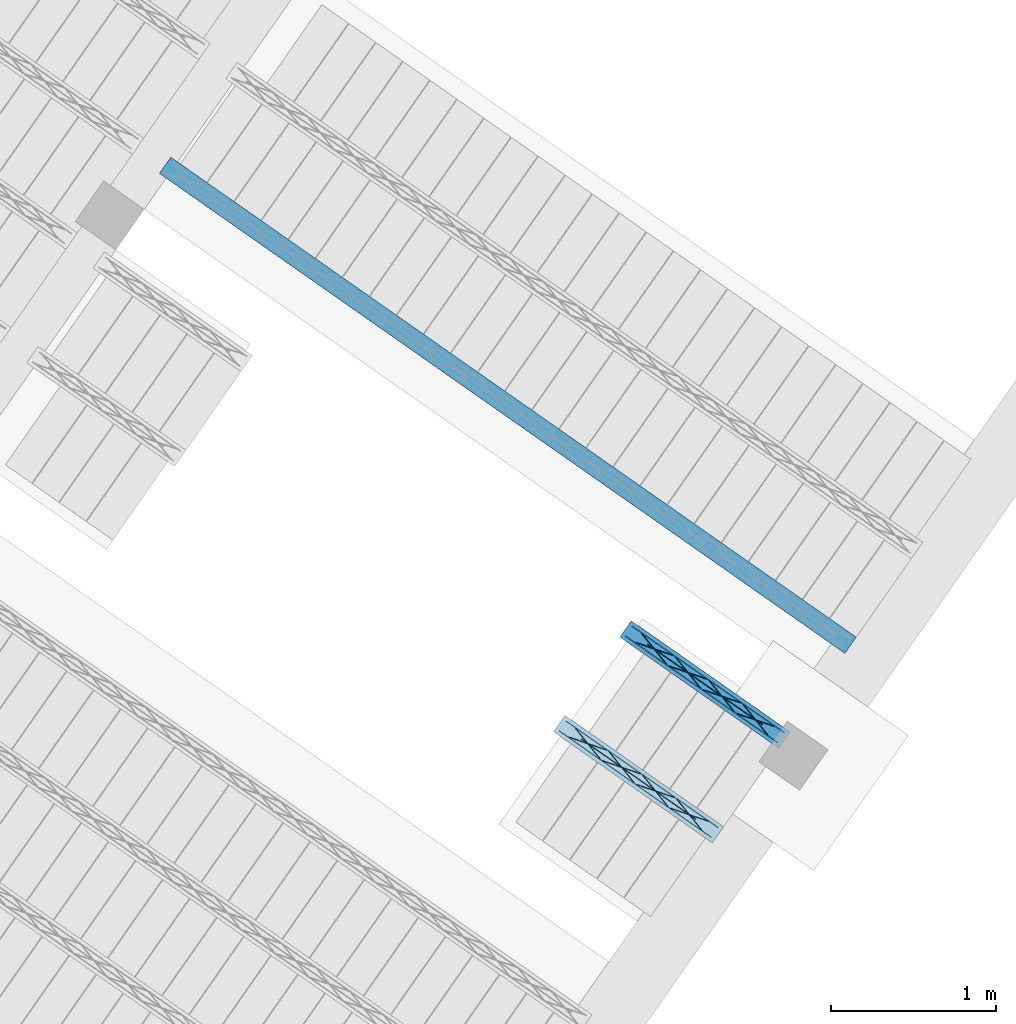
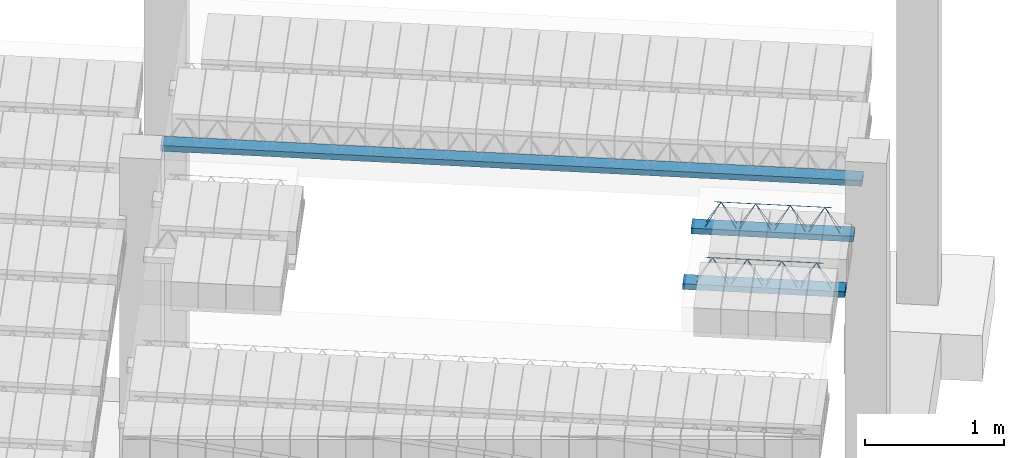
# One storey, part 45 of 80: 4 beams, 2 members.
"""IFC2X3 building model written with IfcOpenShell, lengths in metres."""

from ifc_helpers import new_model, entity, si_unit, converted_unit, derived_unit, direction, frame, frame_2d, origin, origin_2d_with_axis, place, context, subcontext, project, spatial, rectangle, circle, extrude, material, type_object, element, save


model = new_model("IFC2X3")

# Units and contexts
model_context = context("Model", 3, precision=1e-05, world=origin(), true_north=direction((6.123031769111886e-17, 1.0)))
body_context = subcontext(model_context, "Body", "Model", "MODEL_VIEW")
ifc_project = project(units=[si_unit("LENGTHUNIT", "METRE"), si_unit("AREAUNIT", "SQUARE_METRE"), si_unit("VOLUMEUNIT", "CUBIC_METRE"), converted_unit("PLANEANGLEUNIT", "DEGREE", entity("IfcPlaneAngleMeasure", 0.017453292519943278), si_unit("PLANEANGLEUNIT", "RADIAN"), dimensions=[0, 0, 0, 0, 0, 0, 0]), si_unit("MASSUNIT", "GRAM", prefix="KILO"), derived_unit("MASSDENSITYUNIT", [(si_unit("MASSUNIT", "GRAM", prefix="KILO"), 1), (si_unit("LENGTHUNIT", "METRE"), -3)]), derived_unit("IONCONCENTRATIONUNIT", [(si_unit("MASSUNIT", "GRAM", prefix="KILO"), 1), (si_unit("LENGTHUNIT", "METRE"), -3)]), derived_unit("MOMENTOFINERTIAUNIT", [(si_unit("LENGTHUNIT", "METRE"), 4)]), si_unit("TIMEUNIT", "SECOND"), si_unit("FREQUENCYUNIT", "HERTZ"), si_unit("THERMODYNAMICTEMPERATUREUNIT", "DEGREE_CELSIUS"), derived_unit("THERMALTRANSMITTANCEUNIT", [(si_unit("MASSUNIT", "GRAM", prefix="KILO"), 1), (si_unit("THERMODYNAMICTEMPERATUREUNIT", "KELVIN"), -1), (si_unit("TIMEUNIT", "SECOND"), -3)]), derived_unit("THERMALCONDUCTANCEUNIT", [(si_unit("MASSUNIT", "GRAM", prefix="KILO"), 1), (si_unit("THERMODYNAMICTEMPERATUREUNIT", "KELVIN"), -1), (si_unit("TIMEUNIT", "SECOND"), -3), (si_unit("LENGTHUNIT", "METRE"), 1)]), derived_unit("VOLUMETRICFLOWRATEUNIT", [(si_unit("LENGTHUNIT", "METRE", prefix="DECI"), 3), (si_unit("TIMEUNIT", "SECOND"), -1)]), derived_unit("MASSFLOWRATEUNIT", [(si_unit("MASSUNIT", "GRAM", prefix="KILO"), 1), (si_unit("TIMEUNIT", "SECOND"), -1)]), derived_unit("ROTATIONALFREQUENCYUNIT", [(si_unit("TIMEUNIT", "SECOND"), -1)]), si_unit("ELECTRICCURRENTUNIT", "AMPERE"), si_unit("ELECTRICVOLTAGEUNIT", "VOLT"), si_unit("POWERUNIT", "WATT"), si_unit("FORCEUNIT", "NEWTON", prefix="KILO"), si_unit("ILLUMINANCEUNIT", "LUX"), si_unit("LUMINOUSFLUXUNIT", "LUMEN"), si_unit("LUMINOUSINTENSITYUNIT", "CANDELA"), si_unit("ENERGYUNIT", "JOULE"), derived_unit("USERDEFINED", [(si_unit("MASSUNIT", "GRAM", prefix="KILO"), -1), (si_unit("LENGTHUNIT", "METRE"), -2), (si_unit("TIMEUNIT", "SECOND"), 3), (si_unit("LUMINOUSFLUXUNIT", "LUMEN"), 1)]), derived_unit("USERDEFINED", [(si_unit("MASSUNIT", "GRAM", prefix="KILO"), 1), (si_unit("TIMEUNIT", "SECOND"), -3), (si_unit("LENGTHUNIT", "METRE"), 3), (si_unit("ELECTRICCURRENTUNIT", "AMPERE"), -2)]), derived_unit("SOUNDPOWERUNIT", [(si_unit("MASSUNIT", "GRAM", prefix="KILO"), 1), (si_unit("TIMEUNIT", "SECOND"), -3), (si_unit("LENGTHUNIT", "METRE"), 2)]), derived_unit("SOUNDPRESSUREUNIT", [(si_unit("MASSUNIT", "GRAM", prefix="KILO"), 1), (si_unit("LENGTHUNIT", "METRE"), -1), (si_unit("TIMEUNIT", "SECOND"), -2)]), derived_unit("LINEARVELOCITYUNIT", [(si_unit("LENGTHUNIT", "METRE"), 1), (si_unit("TIMEUNIT", "SECOND"), -1)]), si_unit("PRESSUREUNIT", "PASCAL"), derived_unit("USERDEFINED", [(si_unit("MASSUNIT", "GRAM", prefix="KILO"), 1), (si_unit("LENGTHUNIT", "METRE"), -2), (si_unit("TIMEUNIT", "SECOND"), -2)]), derived_unit("LINEARFORCEUNIT", [(si_unit("MASSUNIT", "GRAM", prefix="KILO"), 1), (si_unit("TIMEUNIT", "SECOND"), -2)]), derived_unit("PLANARFORCEUNIT", [(si_unit("MASSUNIT", "GRAM", prefix="KILO"), 1), (si_unit("LENGTHUNIT", "METRE"), -1), (si_unit("TIMEUNIT", "SECOND"), -2)]), derived_unit("SPECIFICHEATCAPACITYUNIT", [(si_unit("THERMODYNAMICTEMPERATUREUNIT", "KELVIN"), -1), (si_unit("LENGTHUNIT", "METRE"), 2), (si_unit("TIMEUNIT", "SECOND"), -2)]), derived_unit("HEATFLUXDENSITYUNIT", [(si_unit("MASSUNIT", "GRAM", prefix="KILO"), 1), (si_unit("TIMEUNIT", "SECOND"), -3)]), derived_unit("HEATINGVALUEUNIT", [(si_unit("LENGTHUNIT", "METRE"), 2), (si_unit("TIMEUNIT", "SECOND"), -2)]), derived_unit("VAPORPERMEABILITYUNIT", [(si_unit("LENGTHUNIT", "METRE"), -1), (si_unit("TIMEUNIT", "SECOND"), 1)]), derived_unit("DYNAMICVISCOSITYUNIT", [(si_unit("MASSUNIT", "GRAM", prefix="KILO"), 1), (si_unit("TIMEUNIT", "SECOND"), -1), (si_unit("LENGTHUNIT", "METRE"), -1)]), derived_unit("THERMALEXPANSIONCOEFFICIENTUNIT", [(si_unit("THERMODYNAMICTEMPERATUREUNIT", "KELVIN"), -1)]), derived_unit("MODULUSOFELASTICITYUNIT", [(si_unit("MASSUNIT", "GRAM", prefix="KILO"), 1), (si_unit("LENGTHUNIT", "METRE"), -1), (si_unit("TIMEUNIT", "SECOND"), -2)]), derived_unit("ISOTHERMALMOISTURECAPACITYUNIT", [(si_unit("MASSUNIT", "GRAM", prefix="KILO"), -1), (si_unit("LENGTHUNIT", "METRE"), 3)]), derived_unit("MOISTUREDIFFUSIVITYUNIT", [(si_unit("TIMEUNIT", "SECOND"), -1), (si_unit("LENGTHUNIT", "METRE"), 2)]), derived_unit("MASSPERLENGTHUNIT", [(si_unit("MASSUNIT", "GRAM", prefix="KILO"), 1), (si_unit("LENGTHUNIT", "METRE"), -1)]), derived_unit("THERMALRESISTANCEUNIT", [(si_unit("MASSUNIT", "GRAM", prefix="KILO"), -1), (si_unit("TIMEUNIT", "SECOND"), 3), (si_unit("THERMODYNAMICTEMPERATUREUNIT", "KELVIN"), 1)]), derived_unit("ACCELERATIONUNIT", [(si_unit("LENGTHUNIT", "METRE"), 1), (si_unit("TIMEUNIT", "SECOND"), -2)]), derived_unit("ANGULARVELOCITYUNIT", [(si_unit("TIMEUNIT", "SECOND"), -1), (si_unit("PLANEANGLEUNIT", "RADIAN"), 1)]), derived_unit("LINEARSTIFFNESSUNIT", [(si_unit("MASSUNIT", "GRAM", prefix="KILO"), 1), (si_unit("TIMEUNIT", "SECOND"), -2)]), derived_unit("WARPINGCONSTANTUNIT", [(si_unit("LENGTHUNIT", "METRE"), 6)]), derived_unit("LINEARMOMENTUNIT", [(si_unit("MASSUNIT", "GRAM", prefix="KILO"), 1), (si_unit("LENGTHUNIT", "METRE"), 1), (si_unit("TIMEUNIT", "SECOND"), -2)]), derived_unit("TORQUEUNIT", [(si_unit("MASSUNIT", "GRAM", prefix="KILO"), 1), (si_unit("LENGTHUNIT", "METRE"), 2), (si_unit("TIMEUNIT", "SECOND"), -2)])], contexts=[model_context])

# Site, building, storey
site_placement = place(None, origin())
site = spatial("IfcSite", under=ifc_project, at=site_placement, Name="Default", CompositionType="ELEMENT")
building_placement = place(site_placement, origin())
building = spatial("IfcBuilding", under=site, at=building_placement, CompositionType="ELEMENT")
storey_placement = place(building_placement, frame((0.0, 0.0, 95.94)))
storey = spatial("IfcBuildingStorey", under=building, at=storey_placement, Name="PB", CompositionType="ELEMENT", Elevation=95.94)

# Member
member_type_1 = type_object("IfcMemberType", Name="Celosía (Vigueta 1 - Paño 10)", PredefinedType="NOTDEFINED")
member_1_placement = place(storey_placement, origin())
element("IfcMember", 1, at=member_1_placement, inside=storey, type_object=member_type_1, Name="Celosía (Vigueta 1 - Paño 10)", context=body_context, shape_type="SweptSolid", body=[
    extrude(circle(Radius=0.0025, at=origin_2d_with_axis()), frame((9.47082598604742, 3.762475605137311, 3.3049999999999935), z_axis=(-0.8191520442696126, 0.5735764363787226, 0.0), x_axis=(-0.5735764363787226, -0.8191520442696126, 0.0)), (0.0, 0.0, 1.0), 1.1248195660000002),
    extrude(circle(Radius=0.0025, at=origin_2d_with_axis()), frame((9.37891523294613, 3.8707800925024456, 3.5299999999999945), z_axis=(-0.8191520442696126, 0.5735764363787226, 0.0), x_axis=(-0.5735764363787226, -0.8191520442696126, 0.0)), (0.0, 0.0, 1.0), 0.8499999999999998),
    extrude(circle(Radius=0.0025, at=origin_2d_with_axis()), frame((9.419702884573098, 3.7982723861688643, 3.3049999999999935), z_axis=(-0.3145304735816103, 0.389334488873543, 0.8657304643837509), x_axis=(-0.7778747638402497, -0.6284193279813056, 0.0)), (0.0, 0.0, 1.0), 0.2598961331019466),
    extrude(circle(Radius=0.0025, at=origin_2d_with_axis()), frame((9.214914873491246, 3.9416664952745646, 3.3049999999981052), z_axis=(0.47343050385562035, -0.1624017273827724, 0.8657304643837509), x_axis=(-0.3244721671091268, -0.9458952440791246, 0.0)), (0.0, 0.0, 1.0), 0.25989613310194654),
    extrude(circle(Radius=0.0025, at=origin_2d_with_axis()), frame((9.214914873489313, 3.9416664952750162, 3.3049999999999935), z_axis=(-0.3145304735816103, 0.389334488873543, 0.8657304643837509), x_axis=(-0.7778747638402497, -0.6284193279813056, 0.0)), (0.0, 0.0, 1.0), 0.2598961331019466),
    extrude(circle(Radius=0.0025, at=origin_2d_with_axis()), frame((9.010126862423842, 4.085060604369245, 3.3049999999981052), z_axis=(0.47343050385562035, -0.1624017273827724, 0.8657304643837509), x_axis=(-0.3244721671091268, -0.9458952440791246, 0.0)), (0.0, 0.0, 1.0), 0.25989613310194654),
    extrude(circle(Radius=0.0025, at=origin_2d_with_axis()), frame((9.01012686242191, 4.085060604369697, 3.3049999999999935), z_axis=(-0.3145304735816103, 0.389334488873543, 0.8657304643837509), x_axis=(-0.7778747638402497, -0.6284193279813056, 0.0)), (0.0, 0.0, 1.0), 0.2598961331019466),
    extrude(circle(Radius=0.0025, at=origin_2d_with_axis()), frame((8.805338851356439, 4.228454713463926, 3.3049999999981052), z_axis=(0.47343050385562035, -0.1624017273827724, 0.8657304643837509), x_axis=(-0.3244721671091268, -0.9458952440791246, 0.0)), (0.0, 0.0, 1.0), 0.25989613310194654),
    extrude(circle(Radius=0.0025, at=origin_2d_with_axis()), frame((8.805338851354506, 4.2284547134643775, 3.3049999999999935), z_axis=(-0.3145304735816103, 0.389334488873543, 0.8657304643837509), x_axis=(-0.7778747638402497, -0.6284193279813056, 0.0)), (0.0, 0.0, 1.0), 0.2598961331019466),
    extrude(circle(Radius=0.0025, at=origin_2d_with_axis()), frame((8.600550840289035, 4.371848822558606, 3.3049999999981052), z_axis=(0.47343050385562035, -0.1624017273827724, 0.8657304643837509), x_axis=(-0.3244721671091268, -0.9458952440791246, 0.0)), (0.0, 0.0, 1.0), 0.25989613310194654),
    extrude(circle(Radius=0.0025, at=origin_2d_with_axis()), frame((9.512123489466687, 3.821454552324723, 3.3049999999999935), z_axis=(-0.8191520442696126, 0.5735764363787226, 0.0), x_axis=(-0.5735764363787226, -0.8191520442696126, 0.0)), (0.0, 0.0, 1.0), 1.1248195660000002),
    extrude(circle(Radius=0.0025, at=origin_2d_with_axis()), frame((9.461000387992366, 3.857251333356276, 3.3049999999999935), z_axis=(-0.47343050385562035, 0.1624017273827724, 0.8657304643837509), x_axis=(-0.3244721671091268, -0.9458952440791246, 0.0)), (0.0, 0.0, 1.0), 0.25989613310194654),
    extrude(circle(Radius=0.0025, at=origin_2d_with_axis()), frame((9.256212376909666, 4.000645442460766, 3.3049999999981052), z_axis=(0.3145304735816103, -0.389334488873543, 0.8657304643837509), x_axis=(-0.7778747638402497, -0.6284193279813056, 0.0)), (0.0, 0.0, 1.0), 0.2598961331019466),
    extrude(circle(Radius=0.0025, at=origin_2d_with_axis()), frame((9.25621237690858, 4.000645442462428, 3.3049999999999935), z_axis=(-0.47343050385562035, 0.1624017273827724, 0.8657304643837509), x_axis=(-0.3244721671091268, -0.9458952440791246, 0.0)), (0.0, 0.0, 1.0), 0.25989613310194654),
    extrude(circle(Radius=0.0025, at=origin_2d_with_axis()), frame((9.051424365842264, 4.144039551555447, 3.3049999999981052), z_axis=(0.3145304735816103, -0.389334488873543, 0.8657304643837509), x_axis=(-0.7778747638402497, -0.6284193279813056, 0.0)), (0.0, 0.0, 1.0), 0.2598961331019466),
    extrude(circle(Radius=0.0025, at=origin_2d_with_axis()), frame((9.051424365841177, 4.14403955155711, 3.3049999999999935), z_axis=(-0.47343050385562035, 0.1624017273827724, 0.8657304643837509), x_axis=(-0.3244721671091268, -0.9458952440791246, 0.0)), (0.0, 0.0, 1.0), 0.25989613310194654),
    extrude(circle(Radius=0.0025, at=origin_2d_with_axis()), frame((8.84663635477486, 4.2874336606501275, 3.3049999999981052), z_axis=(0.3145304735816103, -0.389334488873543, 0.8657304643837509), x_axis=(-0.7778747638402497, -0.6284193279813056, 0.0)), (0.0, 0.0, 1.0), 0.2598961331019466),
    extrude(circle(Radius=0.0025, at=origin_2d_with_axis()), frame((8.846636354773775, 4.287433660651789, 3.3049999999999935), z_axis=(-0.47343050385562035, 0.1624017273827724, 0.8657304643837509), x_axis=(-0.3244721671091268, -0.9458952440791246, 0.0)), (0.0, 0.0, 1.0), 0.25989613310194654),
    extrude(circle(Radius=0.0025, at=origin_2d_with_axis()), frame((8.641848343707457, 4.430827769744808, 3.3049999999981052), z_axis=(0.3145304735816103, -0.389334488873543, 0.8657304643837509), x_axis=(-0.7778747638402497, -0.6284193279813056, 0.0)), (0.0, 0.0, 1.0), 0.2598961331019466),
])

# Beam
beam_type_1 = type_object("IfcBeamType", Name="Vigueta 1 (Paño 10) (Mf = 2.77)", PredefinedType="JOIST")
beam_1_placement = place(storey_placement, origin())
element("IfcBeam", 2, at=beam_1_placement, inside=storey, type_object=beam_type_1, Name="Vigueta 1 (Paño 10) (Mf = 2.77)", ObjectType="Mf = 2.77", context=body_context, shape_type="SweptSolid", body=[
    extrude(rectangle(XDim=1.172819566, YDim=0.1199999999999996, at=frame_2d((4.440892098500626e-16, 3.0531133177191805e-16), x_axis=(1.0, 0.0))), frame((9.030775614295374, 4.114550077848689, 3.2799999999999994), z_axis=(0.0, 0.0, 1.0), x_axis=(0.8191520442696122, -0.5735764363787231, 0.0)), (0.0, 0.0, 1.0), 0.0499999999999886),
    extrude(circle(Radius=0.0025, at=origin_2d_with_axis()), frame((9.47082598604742, 3.762475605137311, 3.3049999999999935), z_axis=(-0.8191520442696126, 0.5735764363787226, 0.0), x_axis=(-0.5735764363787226, -0.8191520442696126, 0.0)), (0.0, 0.0, 1.0), 1.1248195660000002),
    extrude(circle(Radius=0.0025, at=origin_2d_with_axis()), frame((9.37891523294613, 3.8707800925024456, 3.5299999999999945), z_axis=(-0.8191520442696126, 0.5735764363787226, 0.0), x_axis=(-0.5735764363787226, -0.8191520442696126, 0.0)), (0.0, 0.0, 1.0), 0.8499999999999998),
    extrude(circle(Radius=0.0025, at=origin_2d_with_axis()), frame((9.419702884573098, 3.7982723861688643, 3.3049999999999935), z_axis=(-0.3145304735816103, 0.389334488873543, 0.8657304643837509), x_axis=(-0.7778747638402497, -0.6284193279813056, 0.0)), (0.0, 0.0, 1.0), 0.2598961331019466),
    extrude(circle(Radius=0.0025, at=origin_2d_with_axis()), frame((9.214914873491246, 3.9416664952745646, 3.3049999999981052), z_axis=(0.47343050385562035, -0.1624017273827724, 0.8657304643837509), x_axis=(-0.3244721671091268, -0.9458952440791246, 0.0)), (0.0, 0.0, 1.0), 0.25989613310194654),
    extrude(circle(Radius=0.0025, at=origin_2d_with_axis()), frame((9.214914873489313, 3.9416664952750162, 3.3049999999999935), z_axis=(-0.3145304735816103, 0.389334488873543, 0.8657304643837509), x_axis=(-0.7778747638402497, -0.6284193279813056, 0.0)), (0.0, 0.0, 1.0), 0.2598961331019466),
    extrude(circle(Radius=0.0025, at=origin_2d_with_axis()), frame((9.010126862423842, 4.085060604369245, 3.3049999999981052), z_axis=(0.47343050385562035, -0.1624017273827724, 0.8657304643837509), x_axis=(-0.3244721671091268, -0.9458952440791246, 0.0)), (0.0, 0.0, 1.0), 0.25989613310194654),
    extrude(circle(Radius=0.0025, at=origin_2d_with_axis()), frame((9.01012686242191, 4.085060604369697, 3.3049999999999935), z_axis=(-0.3145304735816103, 0.389334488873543, 0.8657304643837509), x_axis=(-0.7778747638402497, -0.6284193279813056, 0.0)), (0.0, 0.0, 1.0), 0.2598961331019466),
    extrude(circle(Radius=0.0025, at=origin_2d_with_axis()), frame((8.805338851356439, 4.228454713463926, 3.3049999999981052), z_axis=(0.47343050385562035, -0.1624017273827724, 0.8657304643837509), x_axis=(-0.3244721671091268, -0.9458952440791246, 0.0)), (0.0, 0.0, 1.0), 0.25989613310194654),
    extrude(circle(Radius=0.0025, at=origin_2d_with_axis()), frame((8.805338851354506, 4.2284547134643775, 3.3049999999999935), z_axis=(-0.3145304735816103, 0.389334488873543, 0.8657304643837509), x_axis=(-0.7778747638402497, -0.6284193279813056, 0.0)), (0.0, 0.0, 1.0), 0.2598961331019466),
    extrude(circle(Radius=0.0025, at=origin_2d_with_axis()), frame((8.600550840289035, 4.371848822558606, 3.3049999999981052), z_axis=(0.47343050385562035, -0.1624017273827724, 0.8657304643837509), x_axis=(-0.3244721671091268, -0.9458952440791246, 0.0)), (0.0, 0.0, 1.0), 0.25989613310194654),
    extrude(circle(Radius=0.0025, at=origin_2d_with_axis()), frame((9.512123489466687, 3.821454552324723, 3.3049999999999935), z_axis=(-0.8191520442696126, 0.5735764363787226, 0.0), x_axis=(-0.5735764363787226, -0.8191520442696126, 0.0)), (0.0, 0.0, 1.0), 1.1248195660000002),
    extrude(circle(Radius=0.0025, at=origin_2d_with_axis()), frame((9.461000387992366, 3.857251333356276, 3.3049999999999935), z_axis=(-0.47343050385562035, 0.1624017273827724, 0.8657304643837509), x_axis=(-0.3244721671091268, -0.9458952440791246, 0.0)), (0.0, 0.0, 1.0), 0.25989613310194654),
    extrude(circle(Radius=0.0025, at=origin_2d_with_axis()), frame((9.256212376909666, 4.000645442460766, 3.3049999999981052), z_axis=(0.3145304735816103, -0.389334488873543, 0.8657304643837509), x_axis=(-0.7778747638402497, -0.6284193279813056, 0.0)), (0.0, 0.0, 1.0), 0.2598961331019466),
    extrude(circle(Radius=0.0025, at=origin_2d_with_axis()), frame((9.25621237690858, 4.000645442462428, 3.3049999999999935), z_axis=(-0.47343050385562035, 0.1624017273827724, 0.8657304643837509), x_axis=(-0.3244721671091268, -0.9458952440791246, 0.0)), (0.0, 0.0, 1.0), 0.25989613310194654),
    extrude(circle(Radius=0.0025, at=origin_2d_with_axis()), frame((9.051424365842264, 4.144039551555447, 3.3049999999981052), z_axis=(0.3145304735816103, -0.389334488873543, 0.8657304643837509), x_axis=(-0.7778747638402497, -0.6284193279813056, 0.0)), (0.0, 0.0, 1.0), 0.2598961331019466),
    extrude(circle(Radius=0.0025, at=origin_2d_with_axis()), frame((9.051424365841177, 4.14403955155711, 3.3049999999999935), z_axis=(-0.47343050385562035, 0.1624017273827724, 0.8657304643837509), x_axis=(-0.3244721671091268, -0.9458952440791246, 0.0)), (0.0, 0.0, 1.0), 0.25989613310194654),
    extrude(circle(Radius=0.0025, at=origin_2d_with_axis()), frame((8.84663635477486, 4.2874336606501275, 3.3049999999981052), z_axis=(0.3145304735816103, -0.389334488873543, 0.8657304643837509), x_axis=(-0.7778747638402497, -0.6284193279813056, 0.0)), (0.0, 0.0, 1.0), 0.2598961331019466),
    extrude(circle(Radius=0.0025, at=origin_2d_with_axis()), frame((8.846636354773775, 4.287433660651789, 3.3049999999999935), z_axis=(-0.47343050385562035, 0.1624017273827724, 0.8657304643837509), x_axis=(-0.3244721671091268, -0.9458952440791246, 0.0)), (0.0, 0.0, 1.0), 0.25989613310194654),
    extrude(circle(Radius=0.0025, at=origin_2d_with_axis()), frame((8.641848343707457, 4.430827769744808, 3.3049999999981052), z_axis=(0.3145304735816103, -0.389334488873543, 0.8657304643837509), x_axis=(-0.7778747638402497, -0.6284193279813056, 0.0)), (0.0, 0.0, 1.0), 0.2598961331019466),
])

# Member
member_type_2 = type_object("IfcMemberType", Name="Celosía (Vigueta 2 - Paño 10)", PredefinedType="NOTDEFINED")
member_2_placement = place(storey_placement, origin())
element("IfcMember", 3, at=member_2_placement, inside=storey, type_object=member_type_2, Name="Celosía (Vigueta 2 - Paño 10)", context=body_context, shape_type="SweptSolid", body=[
    extrude(circle(Radius=0.0025, at=origin_2d_with_axis()), frame((9.872329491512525, 4.335882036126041, 3.3049999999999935), z_axis=(-0.8191520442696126, 0.5735764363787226, 0.0), x_axis=(-0.5735764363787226, -0.8191520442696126, 0.0)), (0.0, 0.0, 1.0), 1.1248195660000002),
    extrude(circle(Radius=0.0025, at=origin_2d_with_axis()), frame((9.780418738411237, 4.444186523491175, 3.5299999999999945), z_axis=(-0.8191520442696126, 0.5735764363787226, 0.0), x_axis=(-0.5735764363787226, -0.8191520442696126, 0.0)), (0.0, 0.0, 1.0), 0.8499999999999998),
    extrude(circle(Radius=0.0025, at=origin_2d_with_axis()), frame((9.821206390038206, 4.371678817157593, 3.3049999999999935), z_axis=(-0.3145304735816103, 0.389334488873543, 0.8657304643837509), x_axis=(-0.7778747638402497, -0.6284193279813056, 0.0)), (0.0, 0.0, 1.0), 0.2598961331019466),
    extrude(circle(Radius=0.0025, at=origin_2d_with_axis()), frame((9.616418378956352, 4.5150729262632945, 3.3049999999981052), z_axis=(0.47343050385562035, -0.1624017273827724, 0.8657304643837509), x_axis=(-0.3244721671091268, -0.9458952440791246, 0.0)), (0.0, 0.0, 1.0), 0.25989613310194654),
    extrude(circle(Radius=0.0025, at=origin_2d_with_axis()), frame((9.61641837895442, 4.515072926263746, 3.3049999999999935), z_axis=(-0.3145304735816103, 0.389334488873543, 0.8657304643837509), x_axis=(-0.7778747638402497, -0.6284193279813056, 0.0)), (0.0, 0.0, 1.0), 0.2598961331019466),
    extrude(circle(Radius=0.0025, at=origin_2d_with_axis()), frame((9.41163036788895, 4.658467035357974, 3.3049999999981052), z_axis=(0.47343050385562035, -0.1624017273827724, 0.8657304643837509), x_axis=(-0.3244721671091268, -0.9458952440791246, 0.0)), (0.0, 0.0, 1.0), 0.25989613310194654),
    extrude(circle(Radius=0.0025, at=origin_2d_with_axis()), frame((9.411630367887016, 4.658467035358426, 3.3049999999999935), z_axis=(-0.3145304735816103, 0.389334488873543, 0.8657304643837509), x_axis=(-0.7778747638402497, -0.6284193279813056, 0.0)), (0.0, 0.0, 1.0), 0.2598961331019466),
    extrude(circle(Radius=0.0025, at=origin_2d_with_axis()), frame((9.206842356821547, 4.801861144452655, 3.3049999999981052), z_axis=(0.47343050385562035, -0.1624017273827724, 0.8657304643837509), x_axis=(-0.3244721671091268, -0.9458952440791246, 0.0)), (0.0, 0.0, 1.0), 0.25989613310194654),
    extrude(circle(Radius=0.0025, at=origin_2d_with_axis()), frame((9.206842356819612, 4.801861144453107, 3.3049999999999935), z_axis=(-0.3145304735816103, 0.389334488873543, 0.8657304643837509), x_axis=(-0.7778747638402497, -0.6284193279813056, 0.0)), (0.0, 0.0, 1.0), 0.2598961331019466),
    extrude(circle(Radius=0.0025, at=origin_2d_with_axis()), frame((9.002054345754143, 4.9452552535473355, 3.3049999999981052), z_axis=(0.47343050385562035, -0.1624017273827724, 0.8657304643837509), x_axis=(-0.3244721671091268, -0.9458952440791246, 0.0)), (0.0, 0.0, 1.0), 0.25989613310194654),
    extrude(circle(Radius=0.0025, at=origin_2d_with_axis()), frame((9.913626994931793, 4.394860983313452, 3.3049999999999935), z_axis=(-0.8191520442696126, 0.5735764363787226, 0.0), x_axis=(-0.5735764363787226, -0.8191520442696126, 0.0)), (0.0, 0.0, 1.0), 1.1248195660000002),
    extrude(circle(Radius=0.0025, at=origin_2d_with_axis()), frame((9.862503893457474, 4.430657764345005, 3.3049999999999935), z_axis=(-0.47343050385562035, 0.1624017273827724, 0.8657304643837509), x_axis=(-0.3244721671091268, -0.9458952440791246, 0.0)), (0.0, 0.0, 1.0), 0.25989613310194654),
    extrude(circle(Radius=0.0025, at=origin_2d_with_axis()), frame((9.657715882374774, 4.574051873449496, 3.3049999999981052), z_axis=(0.3145304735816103, -0.389334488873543, 0.8657304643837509), x_axis=(-0.7778747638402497, -0.6284193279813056, 0.0)), (0.0, 0.0, 1.0), 0.2598961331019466),
    extrude(circle(Radius=0.0025, at=origin_2d_with_axis()), frame((9.657715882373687, 4.5740518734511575, 3.3049999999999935), z_axis=(-0.47343050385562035, 0.1624017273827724, 0.8657304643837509), x_axis=(-0.3244721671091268, -0.9458952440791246, 0.0)), (0.0, 0.0, 1.0), 0.25989613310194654),
    extrude(circle(Radius=0.0025, at=origin_2d_with_axis()), frame((9.45292787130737, 4.717445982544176, 3.3049999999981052), z_axis=(0.3145304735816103, -0.389334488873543, 0.8657304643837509), x_axis=(-0.7778747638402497, -0.6284193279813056, 0.0)), (0.0, 0.0, 1.0), 0.2598961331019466),
    extrude(circle(Radius=0.0025, at=origin_2d_with_axis()), frame((9.452927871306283, 4.717445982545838, 3.3049999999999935), z_axis=(-0.47343050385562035, 0.1624017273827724, 0.8657304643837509), x_axis=(-0.3244721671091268, -0.9458952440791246, 0.0)), (0.0, 0.0, 1.0), 0.25989613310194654),
    extrude(circle(Radius=0.0025, at=origin_2d_with_axis()), frame((9.248139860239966, 4.860840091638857, 3.3049999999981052), z_axis=(0.3145304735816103, -0.389334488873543, 0.8657304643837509), x_axis=(-0.7778747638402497, -0.6284193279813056, 0.0)), (0.0, 0.0, 1.0), 0.2598961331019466),
    extrude(circle(Radius=0.0025, at=origin_2d_with_axis()), frame((9.24813986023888, 4.860840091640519, 3.3049999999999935), z_axis=(-0.47343050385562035, 0.1624017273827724, 0.8657304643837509), x_axis=(-0.3244721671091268, -0.9458952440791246, 0.0)), (0.0, 0.0, 1.0), 0.25989613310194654),
    extrude(circle(Radius=0.0025, at=origin_2d_with_axis()), frame((9.043351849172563, 5.004234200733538, 3.3049999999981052), z_axis=(0.3145304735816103, -0.389334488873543, 0.8657304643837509), x_axis=(-0.7778747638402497, -0.6284193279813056, 0.0)), (0.0, 0.0, 1.0), 0.2598961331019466),
])

# Beams
beam_type_2 = type_object("IfcBeamType", Name="Vigueta 2 (Paño 10) (Mf = 3.51)", PredefinedType="JOIST")
beam_2_placement = place(storey_placement, origin())
element("IfcBeam", 4, at=beam_2_placement, inside=storey, type_object=beam_type_2, Name="Vigueta 2 (Paño 10) (Mf = 3.51)", ObjectType="Mf = 3.51", context=body_context, shape_type="SweptSolid", body=[
    extrude(rectangle(XDim=1.1728195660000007, YDim=0.11999999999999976, at=frame_2d((-1.6653345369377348e-16, 2.220446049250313e-16), x_axis=(1.0, 0.0))), frame((9.43227911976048, 4.687956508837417, 3.2799999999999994), z_axis=(0.0, 0.0, 1.0), x_axis=(0.8191520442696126, -0.5735764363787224, 0.0)), (0.0, 0.0, 1.0), 0.04999999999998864),
    extrude(circle(Radius=0.0025, at=origin_2d_with_axis()), frame((9.872329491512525, 4.335882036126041, 3.3049999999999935), z_axis=(-0.8191520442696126, 0.5735764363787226, 0.0), x_axis=(-0.5735764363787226, -0.8191520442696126, 0.0)), (0.0, 0.0, 1.0), 1.1248195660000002),
    extrude(circle(Radius=0.0025, at=origin_2d_with_axis()), frame((9.780418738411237, 4.444186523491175, 3.5299999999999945), z_axis=(-0.8191520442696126, 0.5735764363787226, 0.0), x_axis=(-0.5735764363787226, -0.8191520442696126, 0.0)), (0.0, 0.0, 1.0), 0.8499999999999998),
    extrude(circle(Radius=0.0025, at=origin_2d_with_axis()), frame((9.821206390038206, 4.371678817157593, 3.3049999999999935), z_axis=(-0.3145304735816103, 0.389334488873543, 0.8657304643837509), x_axis=(-0.7778747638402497, -0.6284193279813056, 0.0)), (0.0, 0.0, 1.0), 0.2598961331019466),
    extrude(circle(Radius=0.0025, at=origin_2d_with_axis()), frame((9.616418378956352, 4.5150729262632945, 3.3049999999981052), z_axis=(0.47343050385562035, -0.1624017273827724, 0.8657304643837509), x_axis=(-0.3244721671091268, -0.9458952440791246, 0.0)), (0.0, 0.0, 1.0), 0.25989613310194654),
    extrude(circle(Radius=0.0025, at=origin_2d_with_axis()), frame((9.61641837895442, 4.515072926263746, 3.3049999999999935), z_axis=(-0.3145304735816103, 0.389334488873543, 0.8657304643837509), x_axis=(-0.7778747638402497, -0.6284193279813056, 0.0)), (0.0, 0.0, 1.0), 0.2598961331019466),
    extrude(circle(Radius=0.0025, at=origin_2d_with_axis()), frame((9.41163036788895, 4.658467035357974, 3.3049999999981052), z_axis=(0.47343050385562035, -0.1624017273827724, 0.8657304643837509), x_axis=(-0.3244721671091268, -0.9458952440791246, 0.0)), (0.0, 0.0, 1.0), 0.25989613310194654),
    extrude(circle(Radius=0.0025, at=origin_2d_with_axis()), frame((9.411630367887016, 4.658467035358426, 3.3049999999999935), z_axis=(-0.3145304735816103, 0.389334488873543, 0.8657304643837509), x_axis=(-0.7778747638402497, -0.6284193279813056, 0.0)), (0.0, 0.0, 1.0), 0.2598961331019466),
    extrude(circle(Radius=0.0025, at=origin_2d_with_axis()), frame((9.206842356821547, 4.801861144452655, 3.3049999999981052), z_axis=(0.47343050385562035, -0.1624017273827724, 0.8657304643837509), x_axis=(-0.3244721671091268, -0.9458952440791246, 0.0)), (0.0, 0.0, 1.0), 0.25989613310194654),
    extrude(circle(Radius=0.0025, at=origin_2d_with_axis()), frame((9.206842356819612, 4.801861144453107, 3.3049999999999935), z_axis=(-0.3145304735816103, 0.389334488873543, 0.8657304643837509), x_axis=(-0.7778747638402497, -0.6284193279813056, 0.0)), (0.0, 0.0, 1.0), 0.2598961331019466),
    extrude(circle(Radius=0.0025, at=origin_2d_with_axis()), frame((9.002054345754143, 4.9452552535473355, 3.3049999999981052), z_axis=(0.47343050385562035, -0.1624017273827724, 0.8657304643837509), x_axis=(-0.3244721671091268, -0.9458952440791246, 0.0)), (0.0, 0.0, 1.0), 0.25989613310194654),
    extrude(circle(Radius=0.0025, at=origin_2d_with_axis()), frame((9.913626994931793, 4.394860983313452, 3.3049999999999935), z_axis=(-0.8191520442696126, 0.5735764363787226, 0.0), x_axis=(-0.5735764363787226, -0.8191520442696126, 0.0)), (0.0, 0.0, 1.0), 1.1248195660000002),
    extrude(circle(Radius=0.0025, at=origin_2d_with_axis()), frame((9.862503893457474, 4.430657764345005, 3.3049999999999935), z_axis=(-0.47343050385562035, 0.1624017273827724, 0.8657304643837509), x_axis=(-0.3244721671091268, -0.9458952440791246, 0.0)), (0.0, 0.0, 1.0), 0.25989613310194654),
    extrude(circle(Radius=0.0025, at=origin_2d_with_axis()), frame((9.657715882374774, 4.574051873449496, 3.3049999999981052), z_axis=(0.3145304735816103, -0.389334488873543, 0.8657304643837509), x_axis=(-0.7778747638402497, -0.6284193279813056, 0.0)), (0.0, 0.0, 1.0), 0.2598961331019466),
    extrude(circle(Radius=0.0025, at=origin_2d_with_axis()), frame((9.657715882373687, 4.5740518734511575, 3.3049999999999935), z_axis=(-0.47343050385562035, 0.1624017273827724, 0.8657304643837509), x_axis=(-0.3244721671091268, -0.9458952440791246, 0.0)), (0.0, 0.0, 1.0), 0.25989613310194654),
    extrude(circle(Radius=0.0025, at=origin_2d_with_axis()), frame((9.45292787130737, 4.717445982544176, 3.3049999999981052), z_axis=(0.3145304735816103, -0.389334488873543, 0.8657304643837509), x_axis=(-0.7778747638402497, -0.6284193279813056, 0.0)), (0.0, 0.0, 1.0), 0.2598961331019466),
    extrude(circle(Radius=0.0025, at=origin_2d_with_axis()), frame((9.452927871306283, 4.717445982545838, 3.3049999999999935), z_axis=(-0.47343050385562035, 0.1624017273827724, 0.8657304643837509), x_axis=(-0.3244721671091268, -0.9458952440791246, 0.0)), (0.0, 0.0, 1.0), 0.25989613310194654),
    extrude(circle(Radius=0.0025, at=origin_2d_with_axis()), frame((9.248139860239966, 4.860840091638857, 3.3049999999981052), z_axis=(0.3145304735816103, -0.389334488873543, 0.8657304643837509), x_axis=(-0.7778747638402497, -0.6284193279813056, 0.0)), (0.0, 0.0, 1.0), 0.2598961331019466),
    extrude(circle(Radius=0.0025, at=origin_2d_with_axis()), frame((9.24813986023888, 4.860840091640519, 3.3049999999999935), z_axis=(-0.47343050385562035, 0.1624017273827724, 0.8657304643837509), x_axis=(-0.3244721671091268, -0.9458952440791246, 0.0)), (0.0, 0.0, 1.0), 0.25989613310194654),
    extrude(circle(Radius=0.0025, at=origin_2d_with_axis()), frame((9.043351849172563, 5.004234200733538, 3.3049999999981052), z_axis=(0.3145304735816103, -0.389334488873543, 0.8657304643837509), x_axis=(-0.7778747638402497, -0.6284193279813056, 0.0)), (0.0, 0.0, 1.0), 0.2598961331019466),
])
ifc_material = material(Name="Hormigón armado")
beam_3_placement = place(storey_placement, origin())
element("IfcBeam", 5, at=beam_3_placement, inside=storey, material=ifc_material, Name="238567", context=body_context, shape_type="SweptSolid", body=[
    extrude(rectangle(XDim=0.04999999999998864, YDim=0.12000000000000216, at=origin_2d_with_axis()), frame((8.95192034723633, 5.024307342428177, 3.3049999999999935), z_axis=(0.8191520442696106, -0.5735764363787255, 0.0), x_axis=(0.0, 0.0, -1.0)), (0.0, 0.0, 1.0), 1.1728195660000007),
])
beam_4_placement = place(storey_placement, origin())
element("IfcBeam", 6, at=beam_4_placement, inside=storey, material=ifc_material, Name="238641", context=body_context, shape_type="SweptSolid", body=[
    extrude(rectangle(XDim=0.04999999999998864, YDim=0.12000000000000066, at=frame_2d((0.0, 7.528699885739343e-16), x_axis=(1.0, 0.0))), frame((6.164682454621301, 7.830494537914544, 3.3049999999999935), z_axis=(0.8191520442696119, -0.5735764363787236, 0.0), x_axis=(0.0, 0.0, -1.0)), (0.0, 0.0, 1.0), 5.065554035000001),
])

save(model, "model.ifc")
